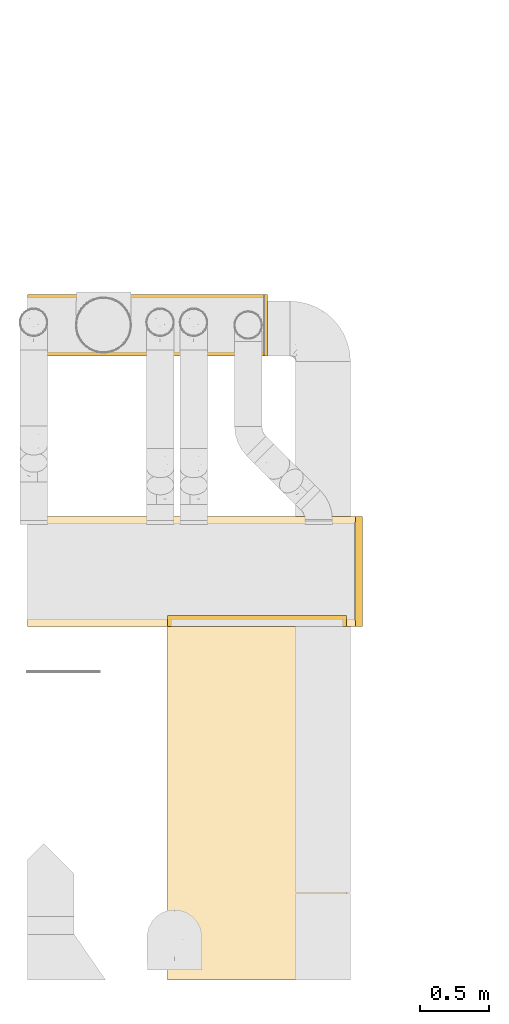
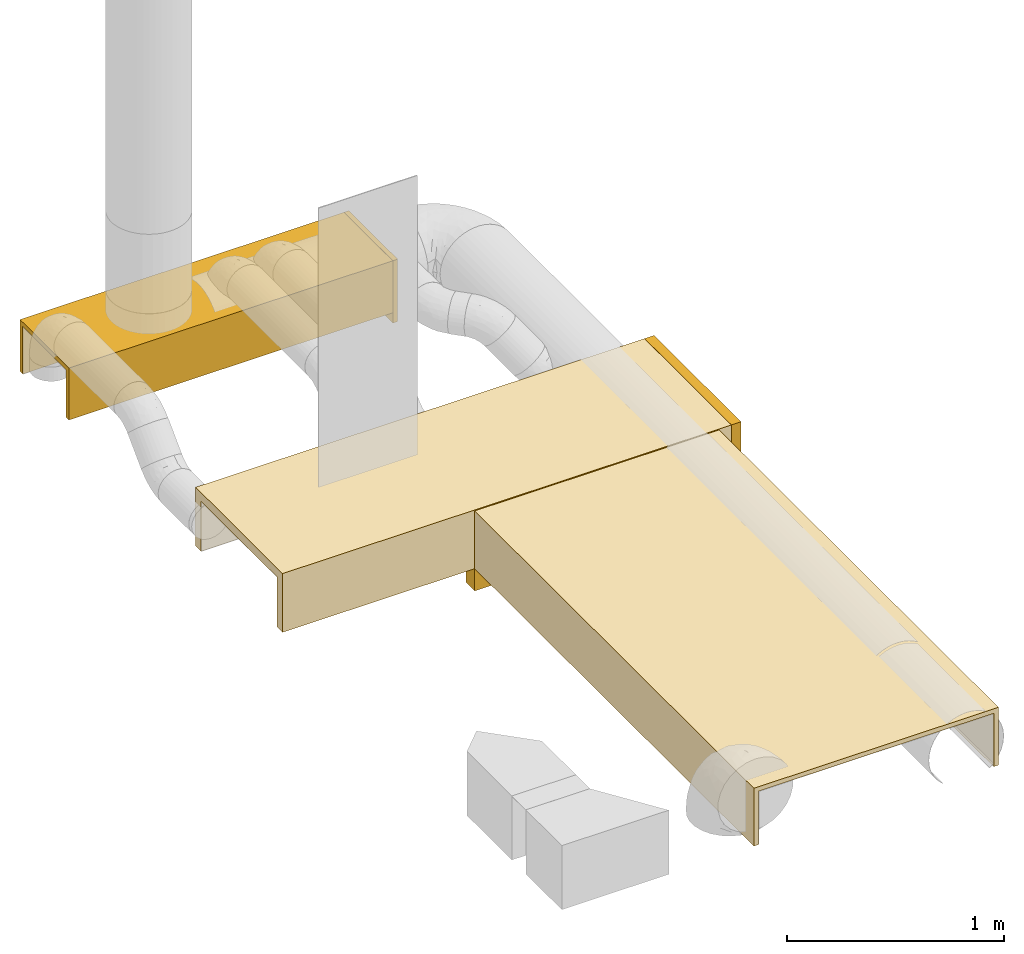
# One storey, part 1 of 9: 6 coverings.
"""IFC2X3 building model written with IfcOpenShell, lengths in millimetres."""

from ifc_helpers import new_model, entity, si_unit, converted_unit, derived_unit, direction, frame, origin_with_axes, place, context, subcontext, project, spatial, open_shell, faceted_brep, surface_model, source, transform, mapped, element, save


model = new_model("IFC2X3")

# Units and contexts
model_context = context("Model", 3, precision=0.01, world=frame((0.0, 4.29681676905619e-09, 0.0)), true_north=direction((4.01073788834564e-13, 1.0)))
plan_context = context("Plan", 3, precision=0.01, world=frame((0.0, 4.29681676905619e-09, 0.0)), true_north=direction((4.01073788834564e-13, 1.0)))
body_context = subcontext(model_context, "Body", "Model", "MODEL_VIEW")
ifc_project = project(units=[converted_unit("PLANEANGLEUNIT", "DEGREE", entity("IfcPositiveLengthMeasure", 0.0174532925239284), si_unit("PLANEANGLEUNIT", "RADIAN"), dimensions=[0, 0, 0, 0, 0, 0, 0]), si_unit("AREAUNIT", "SQUARE_METRE"), si_unit("LENGTHUNIT", "METRE", prefix="MILLI"), si_unit("MASSUNIT", "GRAM", prefix="KILO"), si_unit("POWERUNIT", "WATT"), si_unit("PRESSUREUNIT", "PASCAL"), si_unit("FORCEUNIT", "NEWTON", prefix="KILO"), si_unit("ELECTRICVOLTAGEUNIT", "VOLT"), si_unit("ELECTRICCURRENTUNIT", "AMPERE"), si_unit("THERMODYNAMICTEMPERATUREUNIT", "DEGREE_CELSIUS"), si_unit("TIMEUNIT", "SECOND"), si_unit("VOLUMEUNIT", "CUBIC_METRE"), derived_unit("LINEARVELOCITYUNIT", [(si_unit("LENGTHUNIT", "METRE"), 1), (si_unit("TIMEUNIT", "SECOND"), -1)]), derived_unit("VOLUMETRICFLOWRATEUNIT", [(si_unit("VOLUMEUNIT", "CUBIC_METRE"), 1), (si_unit("TIMEUNIT", "SECOND"), -1)]), derived_unit("THERMALTRANSMITTANCEUNIT", [(si_unit("POWERUNIT", "WATT"), 1), (si_unit("THERMODYNAMICTEMPERATUREUNIT", "KELVIN"), -1), (si_unit("AREAUNIT", "SQUARE_METRE"), -1)]), derived_unit("SOUNDPRESSUREUNIT", [(si_unit("PRESSUREUNIT", "PASCAL"), 1)])], contexts=[model_context, plan_context])

# Site, building, storey
site_placement = place(None, frame((0.0, -4.29681676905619e-09, 0.0), z_axis=(0.0, 0.0, 1.0), x_axis=(1.0, 0.0, 0.0)))
site = spatial("IfcSite", under=ifc_project, at=site_placement, Name="ENGM", CompositionType="ELEMENT")
building_placement = place(site_placement, frame((0.0, 4.29681676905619e-09, 0.0), z_axis=(0.0, 0.0, 1.0), x_axis=(1.0, 0.0, 0.0)))
building = spatial("IfcBuilding", under=site, at=building_placement, Name="TH", CompositionType="ELEMENT")
storey_placement = place(building_placement, frame((0.0, 0.0, 205200.0), z_axis=(0.0, 0.0, 1.0), x_axis=(1.0, 0.0, 0.0)))
storey = spatial("IfcBuildingStorey", under=building, at=storey_placement, Name="Nivå D + 1,2 m", CompositionType="ELEMENT", Elevation=205200.0)

# Coverings
shared_shape_1 = source(origin_with_axes(), body_context, "Body", "SurfaceModel", [
    surface_model("IfcShellBasedSurfaceModel", [(25.8, 225.0, -175.0), (25.8, -225.0, -175.0), (0.0, -225.0, -175.0), (0.0, 225.0, -175.0), (25.8, 225.0, 175.0), (0.0, 225.0, 175.0), (25.8, -225.0, 175.0), (0.0, -225.0, 175.0)], [open_shell([[[0, 1, 2]], [[2, 3, 0]], [[4, 0, 3]], [[3, 5, 4]], [[6, 4, 5]], [[5, 7, 6]], [[1, 6, 7]], [[7, 2, 1]], [[6, 1, 4]], [[0, 4, 1]], [[5, 3, 7]], [[2, 7, 3]]])]),
])
covering_1_placement = place(storey_placement, frame((896833.77362, 480797.12038, 4116.87078), z_axis=(0.0, 0.0, 1.0), x_axis=(1.0, 0.0, 0.0)))
element("IfcCovering", 1, at=covering_1_placement, inside=storey, Name="T=25mm", PredefinedType="INSULATION", context=body_context, shape_type="MappedRepresentation", body=[
    mapped(shared_shape_1, transform((0.0, 0.0, 0.0), scale=1.0)),
])
shared_shape_2 = source(origin_with_axes(), body_context, "Body", "SurfaceModel", [
    surface_model("IfcShellBasedSurfaceModel", [(0.0, 400.0, 250.0), (0.0, 400.0, -250.0), (0.0, -400.0, -250.0), (0.0, -400.0, 250.0), (50.8, -400.0, 250.0), (50.8, -400.0, -250.0), (50.8, 400.0, -250.0), (50.8, 400.0, 250.0)], [open_shell([[[0, 1, 2]], [[2, 3, 0]], [[4, 5, 6]], [[6, 7, 4]], [[6, 5, 2]], [[2, 1, 6]], [[7, 6, 0]], [[1, 0, 6]], [[4, 7, 0]], [[0, 3, 4]], [[5, 4, 2]], [[3, 2, 4]]])]),
])
covering_2_placement = place(storey_placement, frame((897497.4673, 479005.09136, 4080.0), z_axis=(0.0, 0.0, 1.0), x_axis=(1.0, 0.0, 0.0)))
element("IfcCovering", 2, at=covering_2_placement, inside=storey, Name="T=50mm", PredefinedType="INSULATION", context=body_context, shape_type="MappedRepresentation", body=[
    mapped(shared_shape_2, transform((0.0, 0.0, 0.0), scale=1.0)),
])
shared_shape_3 = source(origin_with_axes(), body_context, "Body", "SurfaceModel", [
    surface_model("IfcShellBasedSurfaceModel", [(-31.096, 650.0, -225.0), (50.0, 650.0, -225.0), (50.0, -650.0, -225.0), (-31.096, -650.0, -225.0), (-31.096, -650.0, 225.0), (50.0, -650.0, 225.0), (-31.096, 650.0, 225.0), (50.0, 650.0, 225.0)], [open_shell([[[0, 1, 2]], [[2, 3, 0]], [[4, 5, 6]], [[7, 6, 5]], [[2, 1, 7]], [[7, 5, 2]], [[3, 2, 4]], [[5, 4, 2]], [[0, 3, 4]], [[4, 6, 0]], [[1, 0, 7]], [[6, 7, 0]]])]),
])
covering_3_placement = place(storey_placement, frame((896782.4673, 478655.09136, 4100.0), z_axis=(0.0, 0.0, -1.0), x_axis=(0.0, -1.0, 0.0)))
element("IfcCovering", 3, at=covering_3_placement, inside=storey, Name="T=25mm", PredefinedType="INSULATION", context=body_context, shape_type="MappedRepresentation", body=[
    mapped(shared_shape_3, transform((0.0, 0.0, 0.0), scale=1.0)),
])
covering_4_placement = place(storey_placement, frame((894983.77362, 480797.12038, 4116.87078), z_axis=(0.0, 0.0, 1.0), x_axis=(1.0, 0.0, 0.0)))
element("IfcCovering", 4, at=covering_4_placement, inside=storey, Name="T=25mm", PredefinedType="INSULATION", context=body_context, shape_type="Brep", body=[
    faceted_brep([(128.132548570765, -200.0, 150.0), (128.132548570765, -200.0, -116.870779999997), (1850.0, -200.0, -116.870779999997), (1850.0, -200.0, 150.0), (128.132548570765, 200.0, 150.0), (1850.0, 200.0, 150.0), (1850.0, 200.0, -116.870779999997), (128.132548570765, 200.0, -116.870779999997), (128.132548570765, 225.0, 175.0), (128.132548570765, 225.0, -116.870779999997), (1850.0, 225.0, -116.870779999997), (1850.0, 225.0, 175.0), (128.132548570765, -225.0, 175.0), (1850.0, -225.0, 175.0), (1850.0, -225.0, -116.870779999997), (128.132548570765, -225.0, -116.870779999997)], [[[0, 1, 2, 3]], [[4, 0, 3, 5]], [[6, 7, 4, 5]], [[8, 9, 10, 11]], [[12, 8, 11, 13]], [[14, 15, 12, 13]], [[10, 6, 5, 3, 2, 14, 13, 11]], [[9, 8, 12, 15, 1, 0, 4, 7]], [[15, 14, 2, 1]], [[7, 6, 10, 9]]], orient=[[False], [False], [False], [False], [False], [False], [False], [False], [False], [False]]),
])
covering_5_placement = place(storey_placement, frame((893902.4673, 479005.09136, 4080.0), z_axis=(0.0, 0.0, 1.0), x_axis=(1.0, 0.0, 0.0)))
element("IfcCovering", 5, at=covering_5_placement, inside=storey, Name="T=50mm", PredefinedType="INSULATION", context=body_context, shape_type="Brep", body=[
    faceted_brep([(1209.43886857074, -350.0, 200.0), (1209.43886857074, -350.0, -80.0), (3595.0, -350.0, -80.0), (3595.0, -350.0, 200.0), (1209.43886857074, 350.0, 200.0), (3595.0, 350.0, 200.0), (3595.0, 350.0, -80.0), (1209.43886857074, 350.0, -80.0), (1209.43886857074, 400.0, 250.0), (1209.43886857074, 400.0, -80.0), (3595.0, 400.0, -80.0), (3595.0, 400.0, 250.0), (1209.43886857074, -400.0, 250.0), (3595.0, -400.0, 250.0), (3595.0, -400.0, -80.0), (1209.43886857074, -400.0, -80.0)], [[[0, 1, 2, 3]], [[4, 0, 3, 5]], [[6, 7, 4, 5]], [[8, 9, 10, 11]], [[12, 8, 11, 13]], [[14, 15, 12, 13]], [[10, 6, 5, 3, 2, 14, 13, 11]], [[9, 8, 12, 15, 1, 0, 4, 7]], [[15, 14, 2, 1]], [[7, 6, 10, 9]]], orient=[[False], [False], [False], [False], [False], [False], [False], [False], [False], [False]]),
])
covering_6_placement = place(storey_placement, frame((896782.4673, 478605.09136, 4100.0), z_axis=(0.0, 0.0, 1.0), x_axis=(0.0, -1.0, 0.0)))
element("IfcCovering", 6, at=covering_6_placement, inside=storey, Name="T=25mm", PredefinedType="INSULATION", context=body_context, shape_type="Brep", body=[
    faceted_brep([(0.0, -625.0, -100.0), (2570.41443911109, -624.999999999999, -100.0), (2570.41443911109, -625.0, 200.0), (0.0, -625.0, 200.0), (2570.41443911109, 625.0, 200.0), (0.0, 625.0, 200.0), (2570.41443911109, 625.0, -100.0), (0.0, 625.0, -100.0), (0.0, 650.0, -100.0), (2570.41443911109, 650.000000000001, -100.0), (2570.41443911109, 650.0, 225.0), (0.0, 650.0, 225.0), (2570.41443911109, -650.0, 225.0), (0.0, -650.0, 225.0), (2570.41443911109, -649.999999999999, -100.0), (0.0, -650.0, -100.0)], [[[0, 1, 2, 3]], [[2, 4, 5, 3]], [[4, 6, 7, 5]], [[8, 9, 10, 11]], [[10, 12, 13, 11]], [[12, 14, 15, 13]], [[15, 0, 3, 5, 7, 8, 11, 13]], [[14, 12, 10, 9, 6, 4, 2, 1]], [[1, 0, 15, 14]], [[9, 8, 7, 6]]], orient=[[False], [False], [False], [False], [False], [False], [False], [False], [False], [False]]),
])

save(model, "model.ifc")
